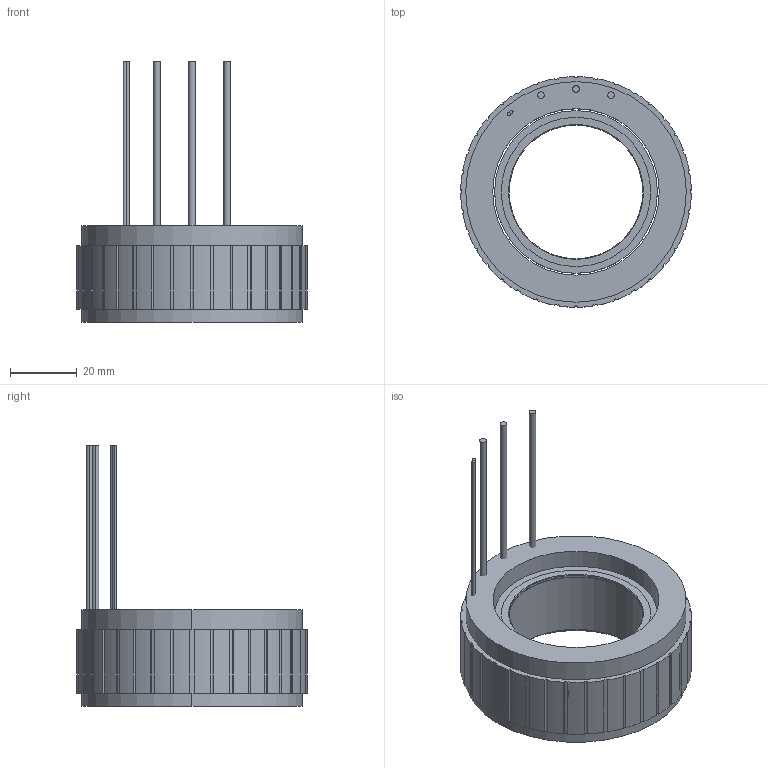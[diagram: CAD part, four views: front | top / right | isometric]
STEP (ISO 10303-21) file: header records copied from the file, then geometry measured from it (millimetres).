
FILE_DESCRIPTION (( 'STEP AP203' ), '1' );
FILE_NAME ('SS£¨FMK07019-0044-3042N-10DP22£©-C.STEP', '2026-02-11T01:00:25', ( '' ), ( '' ), 'SwSTEP 2.0', 'SolidWorks 2023', '' );
FILE_SCHEMA (( 'CONFIG_CONTROL_DESIGN' ));
Length unit declared in the file: millimetre
Products named in the file (1): SS（FMK07019-0044-3042N-10DP22）-C
Bounding box: 68.99 x 69 x 78.05 mm (x, y, z)
Volume: 59222.1 mm3; surface area: 28959 mm2
Topology: 8 solids, 8 shells, 163 faces, 426 edges, 282 vertices
Faces by surface type: cylinder 84, plane 73, cone 6
Entity records: 5141 total; most frequent: DIRECTION 928, CARTESIAN_POINT 872, ORIENTED_EDGE 852, EDGE_CURVE 426, AXIS2_PLACEMENT_3D 338, VERTEX_POINT 282, VECTOR 252, LINE 252
